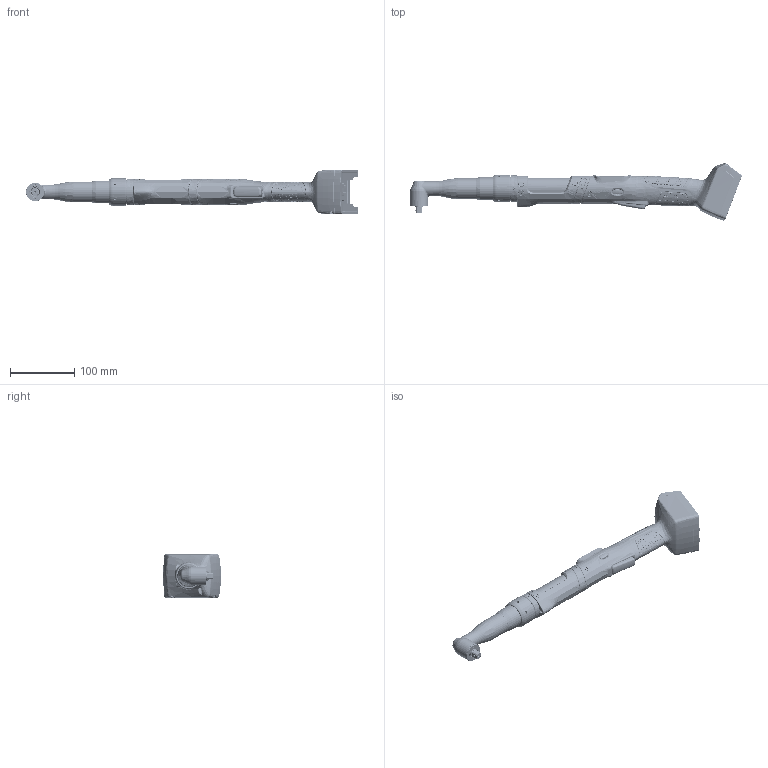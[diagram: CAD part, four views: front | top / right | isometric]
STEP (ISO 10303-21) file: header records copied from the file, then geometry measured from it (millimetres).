
FILE_DESCRIPTION((''),'2;1');
FILE_NAME('ASM0003_ASM','2019-12-09T',('A1X81'),(''),'CREO PARAMETRIC BY PTC INC, 2016050','CREO PARAMETRIC BY PTC INC, 2016050','');
FILE_SCHEMA(('CONFIG_CONTROL_DESIGN'));
Products named in the file (87): T50-3000249_SKEL_1_1_2; T50-3000229_SKEL_1_1_2; T50-1000607_1_1_2; T50-1000623_INSTALL_1_1_2; T50-3000229_ASM_1_1_ASM; T50-1000349-1_1_1_2; T50-1000349-2_1_1_2; T50-1000349-3_1_1_2; T50-1000349-4_1_1_2; T50-1000349-5_1_1_2; T50-1000349_ASM_1_1_ASM; T50-1000257_1_1_2; 207914PT_1_1_2; T50-3000139_ASM_1_1_ASM; T50-1000642_1_1_2; WP154A4_CELLTEK_RA_INSTALLED__1; T55-1000072_INSTALL_CELLTEK_R_2_ASM; T50-1000616_4_1_2; M30X226S_1_1_2; T50-1000616_ASM_1_1_ASM; T50-1000721_1_1_2; T50-3000280_SKEL_1_1_2; T50-1000631_1_1_2; T50-1000630-1_INSTALL_1_1_2; T50-1000630-2_INSTALL_1_1_2; T50-1000630-3_1_1_2; T50-1000630-5_1_1_2; T50-1000630-4_1_1_2; T50-1000630-6_1_1_2; T50-1000630-7_1_1_2; T50-1000630-11_1_1; T50-1000630-8_INSTALL_1; T50-1000630-10_1; T50-1000630-9_1; T50-1000630-12_INSTALL_1; T50-1000630_INSTALL_ASM_1_1_ASM; T50-1000628-1_BOARD_INSTALL_1_1; T50-1000628-1-BTM_ELEC_PLCMEN_3; T50-1000628-1-BTM_ELEC_PLCMEN_4; T50-1000628-1-TOP_KEEP_OUT1_1_1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
Assembly tree (104 placements, depth 6):
  ASM0003_ASM
    CTBAW273_ASM_2_ASM
      T50-3000249_ASM_5_1_ASM
        T50-3000249_SKEL_1_1_2
        T50-3000229_ASM_1_1_ASM
          T50-3000229_SKEL_1_1_2
          T50-1000607_1_1_2
          T50-1000623_INSTALL_1_1_2
        T50-1000349_ASM_1_1_ASM
          T50-1000349-1_1_1_2
          T50-1000349-2_1_1_2
          T50-1000349-3_1_1_2
          T50-1000349-4_1_1_2
          T50-1000349-5_1_1_2
        T50-3000139_ASM_1_1_ASM  x2
          T50-1000257_1_1_2
          207914PT_1_1_2
        T50-1000642_1_1_2
        T55-1000072_INSTALL_CELLTEK_R_2_ASM
          WP154A4_CELLTEK_RA_INSTALLED__1
        T50-1000616_ASM_1_1_ASM
          T50-1000616_4_1_2
          M30X226S_1_1_2  x5
        T50-1000721_1_1_2  x2
        T50-3000280_ASM_1_1_ASM
          T50-3000280_SKEL_1_1_2
          T50-1000631_1_1_2
          T50-1000630_INSTALL_ASM_1_1_ASM
            T50-1000630-1_INSTALL_1_1_2
            T50-1000630-2_INSTALL_1_1_2
            T50-1000630-3_1_1_2
            T50-1000630-5_1_1_2
            T50-1000630-4_1_1_2
            T50-1000630-6_1_1_2
            T50-1000630-7_1_1_2
            T50-1000630-11_1_1
            T50-1000630-8_INSTALL_1
            T50-1000630-10_1
            T50-1000630-9_1
            T50-1000630-12_INSTALL_1
          T50-1000628-1_INSTALL_ASM_1_1_ASM
            T50-1000628-1_BOARD_INSTALL_1_1
            T50-1000628-1-BTM_ELEC_PLCMEN_3
            T50-1000628-1-BTM_ELEC_PLCMEN_4
            T50-1000628-1-TOP_KEEP_OUT1_1_1
            T50-1000628-1_BTM_KEEP_OUT1_1_1
            T50-1000628-1_TOP_KEEP_OUT2_1_1
            T50-1000628-1_BTM_KEEP_OUT2_1_1
            T50-1000628-1_TOP_KEEP_IN1_1_1
            T50-1000628-1_BTM_KEEP_IN1_1_1
            T50-1000628-1_TOP_KEEP_IN2_1_1
            T50-1000628-1_BTM_KEEP_IN2_1_1
        T50-1000604_1_1_2
        T50-1000615_3_1_2
        T50-3000341_ASM_1_1_ASM
          T50-1000637_1_1_2
        843280_1_1_2
        T50-1000327-3_1_1_2  x5
        931791_1_1_2  x2
        T50-1001028_1_1_2  x8
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Bounding box: 515.49 x 89.71 x 69.68 mm (x, y, z)
Volume: 102270.1 mm3; surface area: 262608.7 mm2
Topology: 77 solids, 81 shells, 13460 faces, 33085 edges, 19313 vertices
Faces by surface type: bspline 4242, cylinder 4170, plane 2316, sphere 950, torus 901, cone 622, extrusion 259
Entity records: 637952 total; most frequent: CARTESIAN_POINT 380459, ORIENTED_EDGE 60866, DIRECTION 41899, EDGE_CURVE 30527, VERTEX_POINT 18145, AXIS2_PLACEMENT_3D 16442, B_SPLINE_CURVE_WITH_KNOTS 14231, EDGE_LOOP 13119
